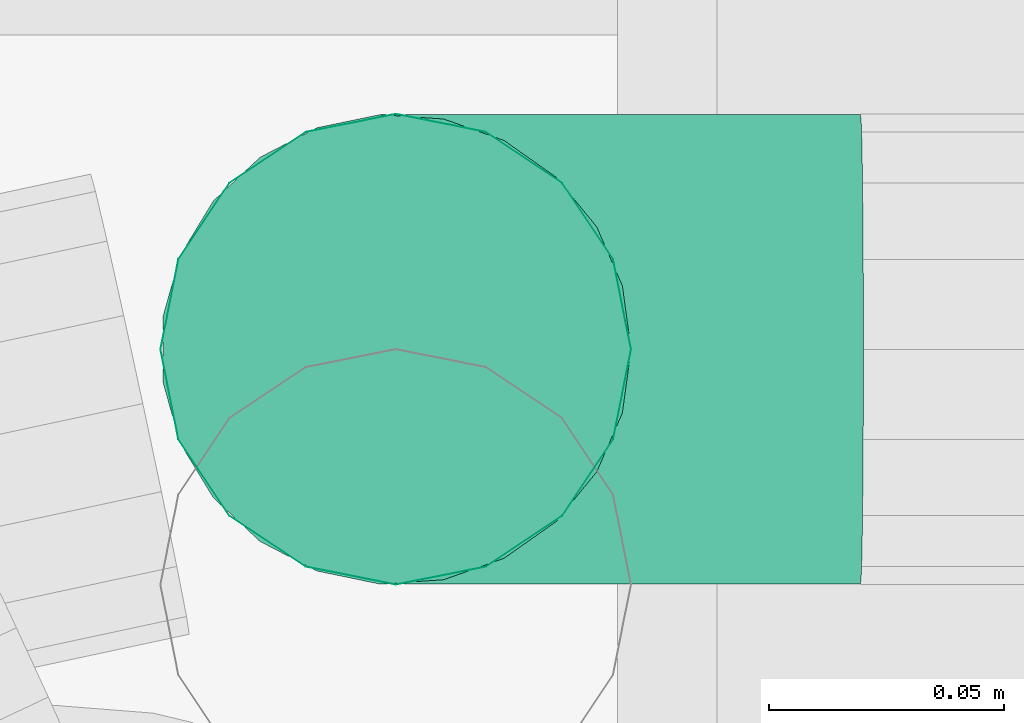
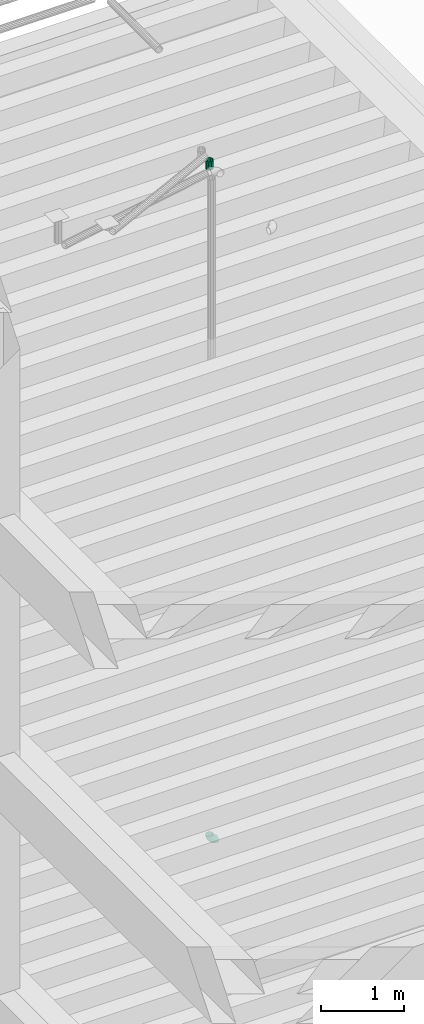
# One storey, part 75 of 106: 1 flow fitting, 1 flow segment.
"""IFC2X3 building model written with IfcOpenShell, lengths in metres."""

from ifc_helpers import new_model, entity, si_unit, converted_unit, derived_unit, money_unit, direction, frame, origin_with_axes, place, context, subcontext, project, spatial, open_shell, faceted_brep, surface_model, material, type_object, element, save


model = new_model("IFC2X3")

# Units and contexts
model_context = context("Model", 3, precision=1e-05, world=origin_with_axes(), true_north=direction((0.0, 1.0)))
body_context = subcontext(model_context, "Body", "Model", "MODEL_VIEW", scale=1.0)
ifc_project = project(units=[si_unit("LENGTHUNIT", "METRE"), si_unit("AREAUNIT", "SQUARE_METRE"), si_unit("VOLUMEUNIT", "CUBIC_METRE"), si_unit("ABSORBEDDOSEUNIT", "GRAY"), si_unit("AMOUNTOFSUBSTANCEUNIT", "MOLE"), si_unit("DOSEEQUIVALENTUNIT", "SIEVERT"), si_unit("ELECTRICCAPACITANCEUNIT", "FARAD"), si_unit("ELECTRICCHARGEUNIT", "COULOMB"), si_unit("ELECTRICCONDUCTANCEUNIT", "SIEMENS"), si_unit("ELECTRICCURRENTUNIT", "AMPERE"), si_unit("ELECTRICRESISTANCEUNIT", "OHM"), si_unit("ELECTRICVOLTAGEUNIT", "VOLT"), si_unit("ENERGYUNIT", "JOULE"), si_unit("FORCEUNIT", "NEWTON"), si_unit("FREQUENCYUNIT", "HERTZ"), si_unit("ILLUMINANCEUNIT", "LUX"), si_unit("INDUCTANCEUNIT", "HENRY"), si_unit("LUMINOUSFLUXUNIT", "LUMEN"), si_unit("LUMINOUSINTENSITYUNIT", "CANDELA"), si_unit("MAGNETICFLUXDENSITYUNIT", "TESLA"), si_unit("MAGNETICFLUXUNIT", "WEBER"), si_unit("MASSUNIT", "GRAM"), converted_unit("PLANEANGLEUNIT", "degree", entity("IfcReal", 0.0174532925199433), si_unit("PLANEANGLEUNIT", "RADIAN"), dimensions=[0, 0, 0, 0, 0, 0, 0]), si_unit("POWERUNIT", "WATT"), si_unit("PRESSUREUNIT", "PASCAL"), si_unit("RADIOACTIVITYUNIT", "BECQUEREL"), si_unit("SOLIDANGLEUNIT", "STERADIAN"), si_unit("THERMODYNAMICTEMPERATUREUNIT", "KELVIN"), si_unit("TIMEUNIT", "SECOND"), derived_unit("ACCELERATIONUNIT", [(si_unit("LENGTHUNIT", "METRE"), 1), (si_unit("TIMEUNIT", "SECOND"), -2)]), derived_unit("ANGULARVELOCITYUNIT", [(converted_unit("PLANEANGLEUNIT", "degree", entity("IfcReal", 0.0174532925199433), si_unit("PLANEANGLEUNIT", "RADIAN"), dimensions=[0, 0, 0, 0, 0, 0, 0]), 1), (si_unit("TIMEUNIT", "SECOND"), -1)]), derived_unit("CURVATUREUNIT", [(converted_unit("PLANEANGLEUNIT", "degree", entity("IfcReal", 0.0174532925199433), si_unit("PLANEANGLEUNIT", "RADIAN"), dimensions=[0, 0, 0, 0, 0, 0, 0]), 1), (si_unit("LENGTHUNIT", "METRE"), -1)]), derived_unit("DYNAMICVISCOSITYUNIT", [(si_unit("PRESSUREUNIT", "PASCAL"), 1), (si_unit("TIMEUNIT", "SECOND"), 1)]), derived_unit("HEATFLUXDENSITYUNIT", [(si_unit("POWERUNIT", "WATT"), 1), (si_unit("LENGTHUNIT", "METRE"), -2)]), derived_unit("HEATINGVALUEUNIT", [(si_unit("ENERGYUNIT", "JOULE"), 1), (si_unit("MASSUNIT", "GRAM"), -1)]), derived_unit("INTEGERCOUNTRATEUNIT", [(si_unit("TIMEUNIT", "SECOND"), -1)]), derived_unit("IONCONCENTRATIONUNIT", [(si_unit("MASSUNIT", "GRAM"), 1), (si_unit("VOLUMEUNIT", "CUBIC_METRE"), -1)]), derived_unit("ISOTHERMALMOISTURECAPACITYUNIT", [(si_unit("VOLUMEUNIT", "CUBIC_METRE"), 1), (si_unit("MASSUNIT", "GRAM"), -1)]), derived_unit("KINEMATICVISCOSITYUNIT", [(si_unit("AREAUNIT", "SQUARE_METRE"), 1), (si_unit("TIMEUNIT", "SECOND"), -1)]), derived_unit("LINEARFORCEUNIT", [(si_unit("FORCEUNIT", "NEWTON"), 1), (si_unit("LENGTHUNIT", "METRE"), -1)]), derived_unit("LINEARMOMENTUNIT", [(si_unit("FORCEUNIT", "NEWTON"), 1), (si_unit("LENGTHUNIT", "METRE"), -1)]), derived_unit("LINEARSTIFFNESSUNIT", [(si_unit("FORCEUNIT", "NEWTON"), 1), (si_unit("LENGTHUNIT", "METRE"), -1)]), derived_unit("LINEARVELOCITYUNIT", [(si_unit("LENGTHUNIT", "METRE"), 1), (si_unit("TIMEUNIT", "SECOND"), -1)]), derived_unit("LUMINOUSINTENSITYDISTRIBUTIONUNIT", [(si_unit("LUMINOUSINTENSITYUNIT", "CANDELA"), 1), (si_unit("LUMINOUSFLUXUNIT", "LUMEN"), -1)]), derived_unit("MASSDENSITYUNIT", [(si_unit("MASSUNIT", "GRAM"), 1), (si_unit("VOLUMEUNIT", "CUBIC_METRE"), -1)]), derived_unit("MASSFLOWRATEUNIT", [(si_unit("MASSUNIT", "GRAM"), 1), (si_unit("TIMEUNIT", "SECOND"), -1)]), derived_unit("MASSPERLENGTHUNIT", [(si_unit("MASSUNIT", "GRAM"), 1), (si_unit("LENGTHUNIT", "METRE"), -1)]), derived_unit("MODULUSOFELASTICITYUNIT", [(si_unit("FORCEUNIT", "NEWTON"), 1), (si_unit("AREAUNIT", "SQUARE_METRE"), -1)]), derived_unit("MODULUSOFLINEARSUBGRADEREACTIONUNIT", [(si_unit("FORCEUNIT", "NEWTON"), 1), (si_unit("LENGTHUNIT", "METRE"), -2)]), derived_unit("MODULUSOFROTATIONALSUBGRADEREACTIONUNIT", [(si_unit("FORCEUNIT", "NEWTON"), 1), (si_unit("LENGTHUNIT", "METRE"), 1)]), derived_unit("MODULUSOFSUBGRADEREACTIONUNIT", [(si_unit("FORCEUNIT", "NEWTON"), 1), (si_unit("VOLUMEUNIT", "CUBIC_METRE"), -1)]), derived_unit("MOISTUREDIFFUSIVITYUNIT", [(si_unit("VOLUMEUNIT", "CUBIC_METRE"), 1), (si_unit("TIMEUNIT", "SECOND"), -1)]), derived_unit("MOLECULARWEIGHTUNIT", [(si_unit("MASSUNIT", "GRAM"), 1), (si_unit("AMOUNTOFSUBSTANCEUNIT", "MOLE"), -1)]), derived_unit("PLANARFORCEUNIT", [(si_unit("FORCEUNIT", "NEWTON"), 1), (si_unit("LENGTHUNIT", "METRE"), -2)]), derived_unit("ROTATIONALFREQUENCYUNIT", [(si_unit("TIMEUNIT", "SECOND"), -1)]), derived_unit("ROTATIONALMASSUNIT", [(si_unit("MASSUNIT", "GRAM"), 1), (si_unit("LENGTHUNIT", "METRE"), 2)]), derived_unit("ROTATIONALSTIFFNESSUNIT", [(si_unit("FORCEUNIT", "NEWTON"), 1), (si_unit("LENGTHUNIT", "METRE"), 1), (converted_unit("PLANEANGLEUNIT", "degree", entity("IfcReal", 0.0174532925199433), si_unit("PLANEANGLEUNIT", "RADIAN"), dimensions=[0, 0, 0, 0, 0, 0, 0]), -1)]), derived_unit("SECTIONAREAINTEGRALUNIT", [(si_unit("LENGTHUNIT", "METRE"), 5)]), derived_unit("SECTIONMODULUSUNIT", [(si_unit("LENGTHUNIT", "METRE"), 3)]), derived_unit("SHEARMODULUSUNIT", [(si_unit("FORCEUNIT", "NEWTON"), 1), (si_unit("AREAUNIT", "SQUARE_METRE"), -1)]), derived_unit("SOUNDPOWERUNIT", [(si_unit("ENERGYUNIT", "JOULE"), 1), (si_unit("TIMEUNIT", "SECOND"), -1)]), derived_unit("SPECIFICHEATCAPACITYUNIT", [(si_unit("FORCEUNIT", "NEWTON"), 1), (si_unit("MASSUNIT", "GRAM"), -1), (si_unit("THERMODYNAMICTEMPERATUREUNIT", "KELVIN"), -1)]), derived_unit("TEMPERATUREGRADIENTUNIT", [(si_unit("THERMODYNAMICTEMPERATUREUNIT", "KELVIN"), 1), (si_unit("LENGTHUNIT", "METRE"), -1)]), derived_unit("THERMALADMITTANCEUNIT", [(si_unit("POWERUNIT", "WATT"), 1), (si_unit("AREAUNIT", "SQUARE_METRE"), -1), (si_unit("THERMODYNAMICTEMPERATUREUNIT", "KELVIN"), -1)]), derived_unit("THERMALCONDUCTANCEUNIT", [(si_unit("POWERUNIT", "WATT"), 1), (si_unit("LENGTHUNIT", "METRE"), -1), (si_unit("THERMODYNAMICTEMPERATUREUNIT", "KELVIN"), -1)]), derived_unit("THERMALEXPANSIONCOEFFICIENTUNIT", [(si_unit("THERMODYNAMICTEMPERATUREUNIT", "KELVIN"), -1)]), derived_unit("THERMALRESISTANCEUNIT", [(si_unit("AREAUNIT", "SQUARE_METRE"), 1), (si_unit("POWERUNIT", "WATT"), -1)]), derived_unit("THERMALTRANSMITTANCEUNIT", [(si_unit("POWERUNIT", "WATT"), 1), (si_unit("AREAUNIT", "SQUARE_METRE"), -1), (si_unit("THERMODYNAMICTEMPERATUREUNIT", "KELVIN"), -1)]), derived_unit("TORQUEUNIT", [(si_unit("FORCEUNIT", "NEWTON"), 1), (si_unit("LENGTHUNIT", "METRE"), 1)]), derived_unit("VAPORPERMEABILITYUNIT", [(si_unit("MASSUNIT", "GRAM"), 1), (si_unit("TIMEUNIT", "SECOND"), -1)]), derived_unit("VOLUMETRICFLOWRATEUNIT", [(si_unit("VOLUMEUNIT", "CUBIC_METRE"), 1), (si_unit("TIMEUNIT", "SECOND"), -1)]), derived_unit("WARPINGCONSTANTUNIT", [(si_unit("LENGTHUNIT", "METRE"), 6)]), derived_unit("WARPINGMOMENTUNIT", [(si_unit("FORCEUNIT", "NEWTON"), 1), (si_unit("LENGTHUNIT", "METRE"), 2)]), money_unit("GBP")], contexts=[model_context])

# Site, building, storey
site_placement = place(None, origin_with_axes())
site = spatial("IfcSite", under=ifc_project, at=site_placement, Name="Site", CompositionType="ELEMENT")
building_placement = place(site_placement, origin_with_axes())
building = spatial("IfcBuilding", under=site, at=building_placement, Name="Building01", CompositionType="ELEMENT")
storey_placement = place(building_placement, origin_with_axes())
storey = spatial("IfcBuildingStorey", under=building, at=storey_placement, Name="GF", CompositionType="ELEMENT", Elevation=0.0)

# Flow segment
ifc_material = material(Name="M_BSUK_ColdWater")
pipe_segment_type = type_object("IfcPipeSegmentType", Name="M-BmpStraightpipe-DefaultPipe", PredefinedType="RIGIDSEGMENT")
flow_segment_placement = place(storey_placement, frame((4.31573, 8.16317, 14.655756), z_axis=(1.0, 0.0, 0.0), x_axis=(0.0, 0.0, -1.0)))
element("IfcFlowSegment", 1, at=flow_segment_placement, inside=storey, type_object=pipe_segment_type, material=ifc_material, Name="M-BmpStraightpipe-DefaultPipe", ObjectType="M-BmpStraightpipe-DefaultPipe", context=body_context, shape_type="Brep", body=[
    faceted_brep([(0.125624, 0.0, -0.05), (0.0, 0.0, -0.05), (0.0, 0.019134, -0.046194), (0.125624, 0.019134, -0.046194), (0.0, 0.035355, -0.035355), (0.125624, 0.035355, -0.035355), (0.0, 0.046194, -0.019134), (0.125624, 0.046194, -0.019134), (0.0, 0.05, 0.0), (0.125624, 0.05, 0.0), (0.0, 0.046194, 0.019134), (0.125624, 0.046194, 0.019134), (0.0, 0.035355, 0.035355), (0.125624, 0.035355, 0.035355), (0.0, 0.019134, 0.046194), (0.125624, 0.019134, 0.046194), (0.0, 0.0, 0.05), (0.125624, 0.0, 0.05), (0.0, -0.019134, 0.046194), (0.125624, -0.019134, 0.046194), (0.0, -0.035355, 0.035355), (0.125624, -0.035355, 0.035355), (0.0, -0.046194, 0.019134), (0.125624, -0.046194, 0.019134), (0.0, -0.05, 0.0), (0.125624, -0.05, 0.0), (0.0, -0.046194, -0.019134), (0.125624, -0.046194, -0.019134), (0.0, -0.035355, -0.035355), (0.125624, -0.035355, -0.035355), (0.0, -0.019134, -0.046194), (0.125624, -0.019134, -0.046194)], [[[0, 1, 2, 3]], [[3, 2, 4, 5]], [[5, 4, 6, 7]], [[7, 6, 8, 9]], [[9, 8, 10, 11]], [[11, 10, 12, 13]], [[13, 12, 14, 15]], [[15, 14, 16, 17]], [[17, 16, 18, 19]], [[19, 18, 20, 21]], [[21, 20, 22, 23]], [[23, 22, 24, 25]], [[25, 24, 26, 27]], [[27, 26, 28, 29]], [[29, 28, 30, 31]], [[31, 30, 1, 0]]]),
])

# Space
space_placement = place(storey_placement, frame((3.380525, 16.69365, 0.216987), z_axis=(0.0, 0.0, 1.0), x_axis=(-1.0, 0.0, 0.0)))
space = spatial("IfcSpace", under=storey, at=space_placement, Name="0", CompositionType="ELEMENT", InteriorOrExteriorSpace="NOTDEFINED")

# Flow fitting
pipe_fitting_type = type_object("IfcPipeFittingType", Name="M-BmpElbow-DefaultElbow", PredefinedType="BEND")
flow_fitting_placement = place(storey_placement, frame((4.31573, 8.16317, 4.775518), z_axis=(-1.0, 0.0, 0.0), x_axis=(0.0, 0.0, -1.0)))
element("IfcFlowFitting", 2, at=flow_fitting_placement, inside=space, type_object=pipe_fitting_type, material=ifc_material, Name="M-BmpElbow-DefaultElbow", ObjectType="M-BmpElbow-DefaultElbow", context=body_context, shape_type="SurfaceModel", body=[
    surface_model("IfcShellBasedSurfaceModel", [(0.008048, -0.01349, -0.048774), (0.0, -0.01349, -0.048146), (0.0, 0.0, -0.05), (0.00776, 0.0, -0.050606), (0.0159, -0.01349, -0.050644), (0.015332, 0.0, -0.052409), (0.023368, -0.01349, -0.05371), (0.022532, 0.0, -0.055365), (0.030269, -0.01349, -0.057897), (0.029187, 0.0, -0.059403), (0.036437, -0.01349, -0.063105), (0.035134, 0.0, -0.064424), (0.041721, -0.01349, -0.069207), (0.040229, 0.0, -0.070308), (0.045995, -0.01349, -0.076055), (0.04435, 0.0, -0.076912), (0.049154, -0.01349, -0.083484), (0.047396, 0.0, -0.084074), (0.051121, -0.01349, -0.091313), (0.049293, 0.0, -0.091623), (0.05185, -0.01349, -0.099352), (0.049996, 0.0, -0.099375), (0.00889, -0.025979, -0.043415), (0.0, -0.025979, -0.042721), (0.017564, -0.025979, -0.04548), (0.025813, -0.025979, -0.048867), (0.033436, -0.025979, -0.053493), (0.040248, -0.025979, -0.059245), (0.046086, -0.025979, -0.065986), (0.050807, -0.025979, -0.07355), (0.054296, -0.025979, -0.081756), (0.056469, -0.025979, -0.090404), (0.057275, -0.025979, -0.099284), (0.010223, -0.036542, -0.034926), (0.0, -0.036542, -0.034128), (0.020199, -0.036542, -0.037301), (0.029685, -0.036542, -0.041196), (0.038452, -0.036542, -0.046515), (0.046287, -0.036542, -0.053131), (0.053, -0.036542, -0.060883), (0.058429, -0.036542, -0.069582), (0.062442, -0.036542, -0.079019), (0.064941, -0.036542, -0.088964), (0.065867, -0.036542, -0.099177), (0.01195, -0.044394, -0.023936), (0.0, -0.044394, -0.023003), (0.02361, -0.044394, -0.026712), (0.034698, -0.044394, -0.031265), (0.044946, -0.044394, -0.037483), (0.054104, -0.044394, -0.045216), (0.061951, -0.044394, -0.054277), (0.068296, -0.044394, -0.064445), (0.072987, -0.044394, -0.075476), (0.075908, -0.044394, -0.0871), (0.076991, -0.044394, -0.099038), (0.013941, -0.048954, -0.011261), (0.0, -0.048954, -0.010173), (0.027544, -0.048954, -0.0145), (0.04048, -0.048954, -0.019811), (0.052435, -0.048954, -0.027065), (0.063119, -0.048954, -0.036087), (0.072274, -0.048954, -0.046657), (0.079677, -0.048954, -0.058521), (0.085149, -0.048954, -0.071389), (0.088558, -0.048954, -0.084951), (0.08982, -0.048954, -0.098877), (0.01605, -0.049883, 0.002159), (0.0, -0.049883, 0.003412), (0.03171, -0.049883, -0.00157), (0.046602, -0.049883, -0.007684), (0.060365, -0.049883, -0.016035), (0.072665, -0.049883, -0.026421), (0.083204, -0.049883, -0.03859), (0.091727, -0.049883, -0.052247), (0.098026, -0.049883, -0.067062), (0.101951, -0.049883, -0.082675), (0.103404, -0.049883, -0.098707), (0.018119, -0.047113, 0.015329), (0.0, -0.047113, 0.016744), (0.035798, -0.047113, 0.01112), (0.05261, -0.047113, 0.004218), (0.068147, -0.047113, -0.00521), (0.082033, -0.047113, -0.016935), (0.093931, -0.047113, -0.030673), (0.103552, -0.047113, -0.046091), (0.110664, -0.047113, -0.062816), (0.115094, -0.047113, -0.080441), (0.116735, -0.047113, -0.098541), (0.019995, -0.040848, 0.027273), (0.0, -0.040848, 0.028834), (0.039505, -0.040848, 0.022628), (0.058059, -0.040848, 0.01501), (0.075205, -0.040848, 0.004606), (0.090528, -0.040848, -0.008333), (0.103658, -0.040848, -0.023494), (0.114276, -0.040848, -0.040508), (0.122124, -0.040848, -0.058965), (0.127013, -0.040848, -0.078416), (0.128824, -0.040848, -0.09839), (0.021539, -0.031554, 0.037104), (0.0, -0.031554, 0.038786), (0.042557, -0.031554, 0.0321), (0.062543, -0.031554, 0.023894), (0.081014, -0.031554, 0.012686), (0.097521, -0.031554, -0.001252), (0.111665, -0.031554, -0.017584), (0.123103, -0.031554, -0.035913), (0.131557, -0.031554, -0.055795), (0.136824, -0.031554, -0.076749), (0.138775, -0.031554, -0.098265), (0.022638, -0.01992, 0.044093), (0.0, -0.01992, 0.045861), (0.044726, -0.01992, 0.038834), (0.065732, -0.01992, 0.03021), (0.085144, -0.01992, 0.018431), (0.102492, -0.01992, 0.003782), (0.117357, -0.01992, -0.013383), (0.129378, -0.01992, -0.032646), (0.138264, -0.01992, -0.053542), (0.143799, -0.01992, -0.075563), (0.145849, -0.01992, -0.098177), (0.023208, -0.006808, 0.047722), (0.0, -0.006808, 0.049534), (0.045853, -0.006808, 0.042331), (0.067387, -0.006808, 0.03349), (0.087288, -0.006808, 0.021414), (0.105074, -0.006808, 0.006395), (0.120313, -0.006808, -0.011201), (0.132637, -0.006808, -0.03095), (0.141746, -0.006808, -0.052372), (0.147421, -0.006808, -0.074948), (0.149523, -0.006808, -0.098131), (0.023208, 0.006808, 0.047722), (0.0, 0.006808, 0.049534), (0.045853, 0.006808, 0.042331), (0.067387, 0.006808, 0.03349), (0.087288, 0.006808, 0.021414), (0.105074, 0.006808, 0.006395), (0.120313, 0.006808, -0.011201), (0.132637, 0.006808, -0.03095), (0.141746, 0.006808, -0.052372), (0.147421, 0.006808, -0.074948), (0.149523, 0.006808, -0.098131), (0.022638, 0.01992, 0.044093), (0.0, 0.01992, 0.045861), (0.044726, 0.01992, 0.038834), (0.065732, 0.01992, 0.03021), (0.085144, 0.01992, 0.018431), (0.102492, 0.01992, 0.003782), (0.117357, 0.01992, -0.013383), (0.129378, 0.01992, -0.032646), (0.138264, 0.01992, -0.053542), (0.143799, 0.01992, -0.075563), (0.145849, 0.01992, -0.098177), (0.021539, 0.031554, 0.037104), (0.0, 0.031554, 0.038786), (0.042557, 0.031554, 0.0321), (0.062543, 0.031554, 0.023894), (0.081014, 0.031554, 0.012686), (0.097521, 0.031554, -0.001252), (0.111665, 0.031554, -0.017584), (0.123103, 0.031554, -0.035913), (0.131557, 0.031554, -0.055795), (0.136824, 0.031554, -0.076749), (0.138775, 0.031554, -0.098265), (0.019995, 0.040848, 0.027273), (0.0, 0.040848, 0.028834), (0.039505, 0.040848, 0.022628), (0.058059, 0.040848, 0.01501), (0.075205, 0.040848, 0.004606), (0.090528, 0.040848, -0.008333), (0.103658, 0.040848, -0.023494), (0.114276, 0.040848, -0.040508), (0.122124, 0.040848, -0.058965), (0.127013, 0.040848, -0.078416), (0.128824, 0.040848, -0.09839), (0.018119, 0.047113, 0.015329), (0.0, 0.047113, 0.016744), (0.035798, 0.047113, 0.01112), (0.05261, 0.047113, 0.004218), (0.068147, 0.047113, -0.00521), (0.082033, 0.047113, -0.016935), (0.093931, 0.047113, -0.030673), (0.103552, 0.047113, -0.046091), (0.110664, 0.047113, -0.062816), (0.115094, 0.047113, -0.080441), (0.116735, 0.047113, -0.098541), (0.01605, 0.049883, 0.002159), (0.0, 0.049883, 0.003412), (0.03171, 0.049883, -0.00157), (0.046602, 0.049883, -0.007684), (0.060365, 0.049883, -0.016035), (0.072665, 0.049883, -0.026421), (0.083204, 0.049883, -0.03859), (0.091727, 0.049883, -0.052247), (0.098026, 0.049883, -0.067062), (0.101951, 0.049883, -0.082675), (0.103404, 0.049883, -0.098707), (0.013941, 0.048954, -0.011261), (0.0, 0.048954, -0.010173), (0.027544, 0.048954, -0.0145), (0.04048, 0.048954, -0.019811), (0.052435, 0.048954, -0.027065), (0.063119, 0.048954, -0.036087), (0.072274, 0.048954, -0.046657), (0.079677, 0.048954, -0.058521), (0.085149, 0.048954, -0.071389), (0.088558, 0.048954, -0.084951), (0.08982, 0.048954, -0.098877), (0.01195, 0.044394, -0.023936), (0.0, 0.044394, -0.023003), (0.02361, 0.044394, -0.026712), (0.034698, 0.044394, -0.031265), (0.044946, 0.044394, -0.037483), (0.054104, 0.044394, -0.045216), (0.061951, 0.044394, -0.054277), (0.068296, 0.044394, -0.064445), (0.072987, 0.044394, -0.075476), (0.075908, 0.044394, -0.0871), (0.076991, 0.044394, -0.099038), (0.010223, 0.036542, -0.034926), (0.0, 0.036542, -0.034128), (0.020199, 0.036542, -0.037301), (0.029685, 0.036542, -0.041196), (0.038452, 0.036542, -0.046515), (0.046287, 0.036542, -0.053131), (0.053, 0.036542, -0.060883), (0.058429, 0.036542, -0.069582), (0.062442, 0.036542, -0.079019), (0.064941, 0.036542, -0.088964), (0.065867, 0.036542, -0.099177), (0.00889, 0.025979, -0.043415), (0.0, 0.025979, -0.042721), (0.017564, 0.025979, -0.04548), (0.025813, 0.025979, -0.048867), (0.033436, 0.025979, -0.053493), (0.040248, 0.025979, -0.059245), (0.046086, 0.025979, -0.065986), (0.050807, 0.025979, -0.07355), (0.054296, 0.025979, -0.081756), (0.056469, 0.025979, -0.090404), (0.057275, 0.025979, -0.099284), (0.008048, 0.01349, -0.048774), (0.0, 0.01349, -0.048146), (0.0159, 0.01349, -0.050644), (0.023368, 0.01349, -0.05371), (0.030269, 0.01349, -0.057897), (0.036437, 0.01349, -0.063105), (0.041721, 0.01349, -0.069207), (0.045995, 0.01349, -0.076055), (0.049154, 0.01349, -0.083484), (0.051121, 0.01349, -0.091313), (0.05185, 0.01349, -0.099352)], [open_shell([[[0, 1, 2, 3]], [[4, 0, 3, 5]], [[6, 4, 5, 7]], [[8, 6, 7, 9]], [[10, 8, 9, 11]], [[12, 10, 11, 13]], [[14, 12, 13, 15]], [[16, 14, 15, 17]], [[18, 16, 17, 19]], [[20, 18, 19, 21]], [[22, 23, 1, 0]], [[24, 22, 0, 4]], [[25, 24, 4, 6]], [[26, 25, 6, 8]], [[27, 26, 8, 10]], [[28, 27, 10, 12]], [[29, 28, 12, 14]], [[30, 29, 14, 16]], [[31, 30, 16, 18]], [[32, 31, 18, 20]], [[33, 34, 23, 22]], [[35, 33, 22, 24]], [[36, 35, 24, 25]], [[37, 36, 25, 26]], [[38, 37, 26, 27]], [[39, 38, 27, 28]], [[40, 39, 28, 29]], [[41, 40, 29, 30]], [[42, 41, 30, 31]], [[43, 42, 31, 32]], [[44, 45, 34, 33]], [[46, 44, 33, 35]], [[47, 46, 35, 36]], [[48, 47, 36, 37]], [[49, 48, 37, 38]], [[50, 49, 38, 39]], [[51, 50, 39, 40]], [[52, 51, 40, 41]], [[53, 52, 41, 42]], [[54, 53, 42, 43]], [[55, 56, 45, 44]], [[57, 55, 44, 46]], [[58, 57, 46, 47]], [[59, 58, 47, 48]], [[60, 59, 48, 49]], [[61, 60, 49, 50]], [[62, 61, 50, 51]], [[63, 62, 51, 52]], [[64, 63, 52, 53]], [[65, 64, 53, 54]], [[66, 67, 56, 55]], [[68, 66, 55, 57]], [[69, 68, 57, 58]], [[70, 69, 58, 59]], [[71, 70, 59, 60]], [[72, 71, 60, 61]], [[73, 72, 61, 62]], [[74, 73, 62, 63]], [[75, 74, 63, 64]], [[76, 75, 64, 65]], [[77, 78, 67, 66]], [[79, 77, 66, 68]], [[80, 79, 68, 69]], [[81, 80, 69, 70]], [[82, 81, 70, 71]], [[83, 82, 71, 72]], [[84, 83, 72, 73]], [[85, 84, 73, 74]], [[86, 85, 74, 75]], [[87, 86, 75, 76]], [[88, 89, 78, 77]], [[90, 88, 77, 79]], [[91, 90, 79, 80]], [[92, 91, 80, 81]], [[93, 92, 81, 82]], [[94, 93, 82, 83]], [[95, 94, 83, 84]], [[96, 95, 84, 85]], [[97, 96, 85, 86]], [[98, 97, 86, 87]], [[99, 100, 89, 88]], [[101, 99, 88, 90]], [[102, 101, 90, 91]], [[103, 102, 91, 92]], [[104, 103, 92, 93]], [[105, 104, 93, 94]], [[106, 105, 94, 95]], [[107, 106, 95, 96]], [[108, 107, 96, 97]], [[109, 108, 97, 98]], [[110, 111, 100, 99]], [[112, 110, 99, 101]], [[113, 112, 101, 102]], [[114, 113, 102, 103]], [[115, 114, 103, 104]], [[116, 115, 104, 105]], [[117, 116, 105, 106]], [[118, 117, 106, 107]], [[119, 118, 107, 108]], [[120, 119, 108, 109]], [[121, 122, 111, 110]], [[123, 121, 110, 112]], [[124, 123, 112, 113]], [[125, 124, 113, 114]], [[126, 125, 114, 115]], [[127, 126, 115, 116]], [[128, 127, 116, 117]], [[129, 128, 117, 118]], [[130, 129, 118, 119]], [[131, 130, 119, 120]], [[132, 133, 122, 121]], [[134, 132, 121, 123]], [[135, 134, 123, 124]], [[136, 135, 124, 125]], [[137, 136, 125, 126]], [[138, 137, 126, 127]], [[139, 138, 127, 128]], [[140, 139, 128, 129]], [[141, 140, 129, 130]], [[142, 141, 130, 131]], [[143, 144, 133, 132]], [[145, 143, 132, 134]], [[146, 145, 134, 135]], [[147, 146, 135, 136]], [[148, 147, 136, 137]], [[149, 148, 137, 138]], [[150, 149, 138, 139]], [[151, 150, 139, 140]], [[152, 151, 140, 141]], [[153, 152, 141, 142]], [[154, 155, 144, 143]], [[156, 154, 143, 145]], [[157, 156, 145, 146]], [[158, 157, 146, 147]], [[159, 158, 147, 148]], [[160, 159, 148, 149]], [[161, 160, 149, 150]], [[162, 161, 150, 151]], [[163, 162, 151, 152]], [[164, 163, 152, 153]], [[165, 166, 155, 154]], [[167, 165, 154, 156]], [[168, 167, 156, 157]], [[169, 168, 157, 158]], [[170, 169, 158, 159]], [[171, 170, 159, 160]], [[172, 171, 160, 161]], [[173, 172, 161, 162]], [[174, 173, 162, 163]], [[175, 174, 163, 164]], [[176, 177, 166, 165]], [[178, 176, 165, 167]], [[179, 178, 167, 168]], [[180, 179, 168, 169]], [[181, 180, 169, 170]], [[182, 181, 170, 171]], [[183, 182, 171, 172]], [[184, 183, 172, 173]], [[185, 184, 173, 174]], [[186, 185, 174, 175]], [[187, 188, 177, 176]], [[189, 187, 176, 178]], [[190, 189, 178, 179]], [[191, 190, 179, 180]], [[192, 191, 180, 181]], [[193, 192, 181, 182]], [[194, 193, 182, 183]], [[195, 194, 183, 184]], [[196, 195, 184, 185]], [[197, 196, 185, 186]], [[198, 199, 188, 187]], [[200, 198, 187, 189]], [[201, 200, 189, 190]], [[202, 201, 190, 191]], [[203, 202, 191, 192]], [[204, 203, 192, 193]], [[205, 204, 193, 194]], [[206, 205, 194, 195]], [[207, 206, 195, 196]], [[208, 207, 196, 197]], [[209, 210, 199, 198]], [[211, 209, 198, 200]], [[212, 211, 200, 201]], [[213, 212, 201, 202]], [[214, 213, 202, 203]], [[215, 214, 203, 204]], [[216, 215, 204, 205]], [[217, 216, 205, 206]], [[218, 217, 206, 207]], [[219, 218, 207, 208]], [[220, 221, 210, 209]], [[222, 220, 209, 211]], [[223, 222, 211, 212]], [[224, 223, 212, 213]], [[225, 224, 213, 214]], [[226, 225, 214, 215]], [[227, 226, 215, 216]], [[228, 227, 216, 217]], [[229, 228, 217, 218]], [[230, 229, 218, 219]], [[231, 232, 221, 220]], [[233, 231, 220, 222]], [[234, 233, 222, 223]], [[235, 234, 223, 224]], [[236, 235, 224, 225]], [[237, 236, 225, 226]], [[238, 237, 226, 227]], [[239, 238, 227, 228]], [[240, 239, 228, 229]], [[241, 240, 229, 230]], [[242, 243, 232, 231]], [[244, 242, 231, 233]], [[245, 244, 233, 234]], [[246, 245, 234, 235]], [[247, 246, 235, 236]], [[248, 247, 236, 237]], [[249, 248, 237, 238]], [[250, 249, 238, 239]], [[251, 250, 239, 240]], [[252, 251, 240, 241]], [[3, 2, 243, 242]], [[5, 3, 242, 244]], [[7, 5, 244, 245]], [[9, 7, 245, 246]], [[11, 9, 246, 247]], [[13, 11, 247, 248]], [[15, 13, 248, 249]], [[17, 15, 249, 250]], [[19, 17, 250, 251]], [[21, 19, 251, 252]]])]),
])

save(model, "model.ifc")
